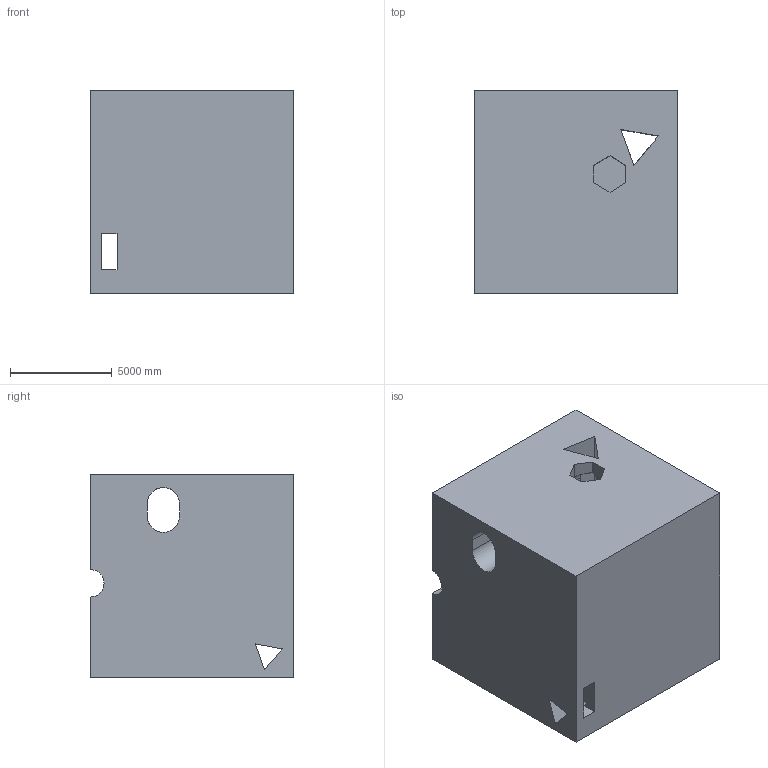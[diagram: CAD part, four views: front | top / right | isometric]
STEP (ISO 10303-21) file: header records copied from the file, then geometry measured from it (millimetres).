
FILE_DESCRIPTION (( 'STEP AP203' ), '1' );
FILE_NAME ('172.STEP', '2022-09-06T15:20:43', ( 'user' ), ( '' ), 'SwSTEP 2.0', 'SolidWorks 2021', '' );
FILE_SCHEMA (( 'CONFIG_CONTROL_DESIGN' ));
Length unit declared in the file: centimetre
Products named in the file (1): 172
Bounding box: 10000 x 10000 x 10000 mm (x, y, z)
Volume: 908413000388.5 mm3; surface area: 847786799 mm2
Topology: 1 solids, 1 shells, 46 faces, 144 edges, 96 vertices
Faces by surface type: plane 40, cylinder 6
Entity records: 1685 total; most frequent: CARTESIAN_POINT 323, ORIENTED_EDGE 288, DIRECTION 238, EDGE_CURVE 144, VECTOR 120, LINE 120, VERTEX_POINT 96, AXIS2_PLACEMENT_3D 59
